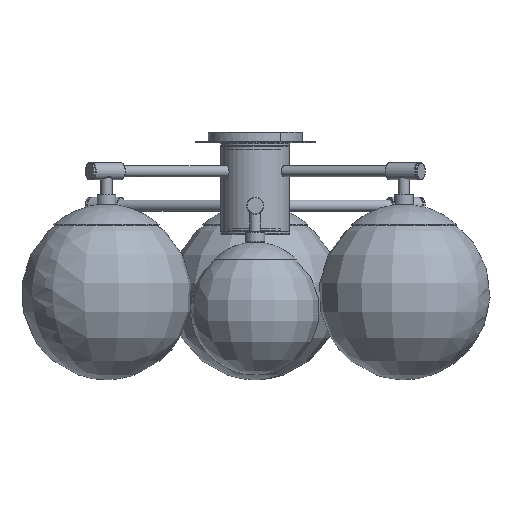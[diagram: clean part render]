
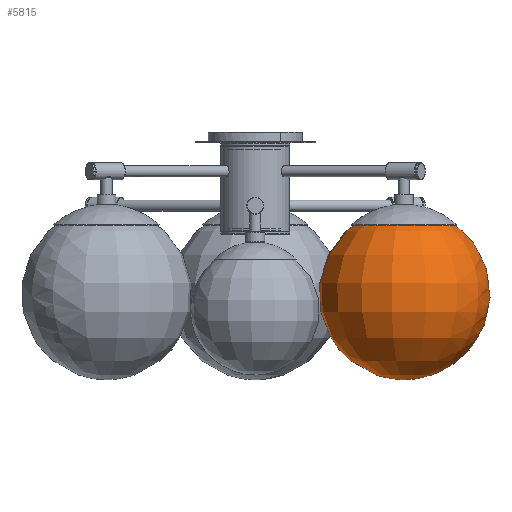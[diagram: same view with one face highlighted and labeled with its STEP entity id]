
A CAD part, front view. The second image highlights one B-rep face of the part: STEP entity #5815.
In plain terms, the highlighted free-form (B-spline) face has degree [2, 2] with [5, 9] control points.
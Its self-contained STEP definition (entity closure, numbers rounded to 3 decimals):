
#57=(
BOUNDED_SURFACE()
B_SPLINE_SURFACE(2,2,((#9268,#9269,#9270,#9271,#9272,#9273,#9274,#9275,
#9276),(#9277,#9278,#9279,#9280,#9281,#9282,#9283,#9284,#9285),(#9286,#9287,
#9288,#9289,#9290,#9291,#9292,#9293,#9294),(#9295,#9296,#9297,#9298,#9299,
#9300,#9301,#9302,#9303),(#9304,#9305,#9306,#9307,#9308,#9309,#9310,#9311,
#9312)),.UNSPECIFIED.,.F.,.T.,.F.)
B_SPLINE_SURFACE_WITH_KNOTS((3,2,3),(3,2,2,2,3),(-1.156,0.208,
1.572),(-3.142,-1.571,0.,1.571,
3.142),.UNSPECIFIED.)
GEOMETRIC_REPRESENTATION_ITEM()
RATIONAL_B_SPLINE_SURFACE(((1.,0.707,1.,0.707,1.,
0.707,1.,0.707,1.),(0.776,0.549,
0.776,0.549,0.776,0.549,
0.776,0.549,0.776),(1.,0.707,
1.,0.707,1.,0.707,1.,0.707,1.),(0.776,
0.549,0.776,0.549,0.776,
0.549,0.776,0.549,0.776),
(1.,0.707,1.,0.707,1.,0.707,1.,0.707,
1.)))
REPRESENTATION_ITEM('')
SURFACE()
);
#496=FACE_OUTER_BOUND('',#915,.T.);
#915=EDGE_LOOP('',(#3814,#3815,#3816));
#2025=CIRCLE('',#6346,40.391);
#2027=CIRCLE('',#6348,100.);
#2450=VERTEX_POINT('',#9265);
#2451=VERTEX_POINT('',#9313);
#2971=EDGE_CURVE('',#2450,#2450,#2025,.T.);
#2973=EDGE_CURVE('',#2451,#2450,#2027,.T.);
#3814=ORIENTED_EDGE('',*,*,#2973,.T.);
#3815=ORIENTED_EDGE('',*,*,#2971,.T.);
#3816=ORIENTED_EDGE('',*,*,#2973,.F.);
#5815=ADVANCED_FACE('',(#496),#57,.F.);
#6346=AXIS2_PLACEMENT_3D('',#9266,#7320,#7321);
#6348=AXIS2_PLACEMENT_3D('',#9314,#7324,#7325);
#7320=DIRECTION('center_axis',(0.,0.,
-1.));
#7321=DIRECTION('ref_axis',(0.5,0.866,0.));
#7324=DIRECTION('center_axis',(-0.5,-0.866,0.));
#7325=DIRECTION('ref_axis',(0.866,-0.5,0.));
#9265=CARTESIAN_POINT('',(208.185,-120.196,18.983));
#9266=CARTESIAN_POINT('Origin',(173.205,-100.,18.983));
#9268=CARTESIAN_POINT('Ctrl Pts',(208.185,-120.196,18.983));
#9269=CARTESIAN_POINT('Ctrl Pts',(187.989,-155.176,18.983));
#9270=CARTESIAN_POINT('Ctrl Pts',(153.009,-134.98,18.983));
#9271=CARTESIAN_POINT('Ctrl Pts',(118.03,-114.784,18.983));
#9272=CARTESIAN_POINT('Ctrl Pts',(138.225,-79.804,18.983));
#9273=CARTESIAN_POINT('Ctrl Pts',(158.421,-44.824,18.983));
#9274=CARTESIAN_POINT('Ctrl Pts',(193.401,-65.02,18.983));
#9275=CARTESIAN_POINT('Ctrl Pts',(228.381,-85.216,18.983));
#9276=CARTESIAN_POINT('Ctrl Pts',(208.185,-120.196,18.983));
#9277=CARTESIAN_POINT('Ctrl Pts',(272.551,-157.357,-13.726));
#9278=CARTESIAN_POINT('Ctrl Pts',(215.194,-256.703,-13.726));
#9279=CARTESIAN_POINT('Ctrl Pts',(115.848,-199.346,-13.726));
#9280=CARTESIAN_POINT('Ctrl Pts',(16.502,-141.989,-13.726));
#9281=CARTESIAN_POINT('Ctrl Pts',(73.859,-42.643,-13.726));
#9282=CARTESIAN_POINT('Ctrl Pts',(131.217,56.703,-13.726));
#9283=CARTESIAN_POINT('Ctrl Pts',(230.562,-0.654,-13.726));
#9284=CARTESIAN_POINT('Ctrl Pts',(329.908,-58.011,-13.726));
#9285=CARTESIAN_POINT('Ctrl Pts',(272.551,-157.357,-13.726));
#9286=CARTESIAN_POINT('Ctrl Pts',(258.04,-148.979,-93.181));
#9287=CARTESIAN_POINT('Ctrl Pts',(209.06,-233.814,-93.181));
#9288=CARTESIAN_POINT('Ctrl Pts',(124.226,-184.835,-93.181));
#9289=CARTESIAN_POINT('Ctrl Pts',(39.391,-135.855,-93.181));
#9290=CARTESIAN_POINT('Ctrl Pts',(88.37,-51.021,-93.181));
#9291=CARTESIAN_POINT('Ctrl Pts',(137.35,33.814,-93.181));
#9292=CARTESIAN_POINT('Ctrl Pts',(222.184,-15.165,-93.181));
#9293=CARTESIAN_POINT('Ctrl Pts',(307.019,-64.145,-93.181));
#9294=CARTESIAN_POINT('Ctrl Pts',(258.04,-148.979,-93.181));
#9295=CARTESIAN_POINT('Ctrl Pts',(243.528,-140.601,-172.635));
#9296=CARTESIAN_POINT('Ctrl Pts',(202.927,-210.925,-172.635));
#9297=CARTESIAN_POINT('Ctrl Pts',(132.604,-170.323,-172.635));
#9298=CARTESIAN_POINT('Ctrl Pts',(62.281,-129.722,-172.635));
#9299=CARTESIAN_POINT('Ctrl Pts',(102.882,-59.399,-172.635));
#9300=CARTESIAN_POINT('Ctrl Pts',(143.483,10.925,-172.635));
#9301=CARTESIAN_POINT('Ctrl Pts',(213.806,-29.677,-172.635));
#9302=CARTESIAN_POINT('Ctrl Pts',(284.13,-70.278,-172.635));
#9303=CARTESIAN_POINT('Ctrl Pts',(243.528,-140.601,-172.635));
#9304=CARTESIAN_POINT('Ctrl Pts',(173.205,-100.,-172.545));
#9305=CARTESIAN_POINT('Ctrl Pts',(173.205,-100.,-172.545));
#9306=CARTESIAN_POINT('Ctrl Pts',(173.205,-100.,-172.545));
#9307=CARTESIAN_POINT('Ctrl Pts',(173.205,-100.,-172.545));
#9308=CARTESIAN_POINT('Ctrl Pts',(173.205,-100.,-172.545));
#9309=CARTESIAN_POINT('Ctrl Pts',(173.205,-100.,-172.545));
#9310=CARTESIAN_POINT('Ctrl Pts',(173.205,-100.,-172.545));
#9311=CARTESIAN_POINT('Ctrl Pts',(173.205,-100.,-172.545));
#9312=CARTESIAN_POINT('Ctrl Pts',(173.205,-100.,-172.545));
#9313=CARTESIAN_POINT('',(173.205,-100.,-172.545));
#9314=CARTESIAN_POINT('Origin',(173.301,-100.055,-72.545));
